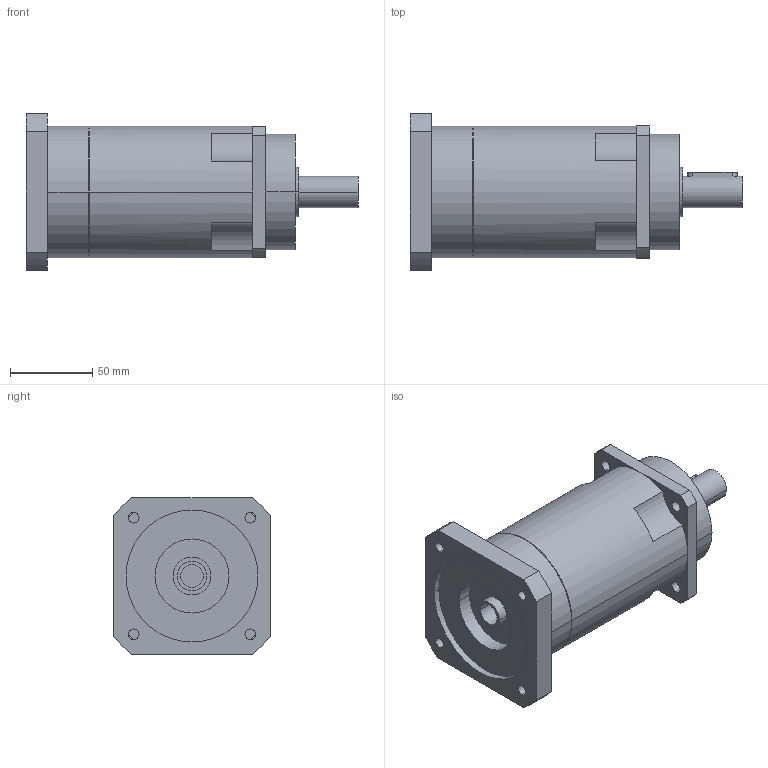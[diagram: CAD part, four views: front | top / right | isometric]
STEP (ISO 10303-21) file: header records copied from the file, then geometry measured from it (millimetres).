
FILE_DESCRIPTION(('CoCreate Modeling STEP Export'),'2;1');
FILE_NAME('GPR100_ig-48-64-80-100-120-144-180-216_19_B5_14_P06.stp','2014-08-26T11:55:02',(''),(''),'CoCreate Modeling STEP processor for AP214 (Solid Model)','CoCreate Modeling 16.00C 25-Feb-2009 (C) Parametric Technology GmbH','');
FILE_SCHEMA(('AUTOMOTIVE_DESIGN { 1 0 10303 214 1 1 1 1 }'));
Length unit declared in the file: millimetre
Products named in the file (2): GPR100_ig-48-64-80-100-120-144-180-216_19_B5_14_P06
Assembly tree (1 placements, depth 2):
  GPR100_ig-48-64-80-100-120-144-180-216_19_B5_14_P06
    GPR100_ig-48-64-80-100-120-144-180-216_19_B5_14_P06
Bounding box: 201.4 x 95 x 95 mm (x, y, z)
Volume: 822917.8 mm3; surface area: 71283.8 mm2
Topology: 1 solids, 1 shells, 89 faces, 247 edges, 169 vertices
Faces by surface type: cylinder 52, plane 31, cone 6
Entity records: 2612 total; most frequent: ORIENTED_EDGE 490, CARTESIAN_POINT 474, DIRECTION 386, EDGE_CURVE 245, VERTEX_POINT 169, AXIS2_PLACEMENT_3D 145, EDGE_LOOP 116, VECTOR 96
